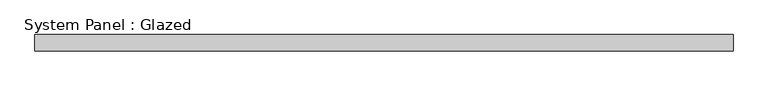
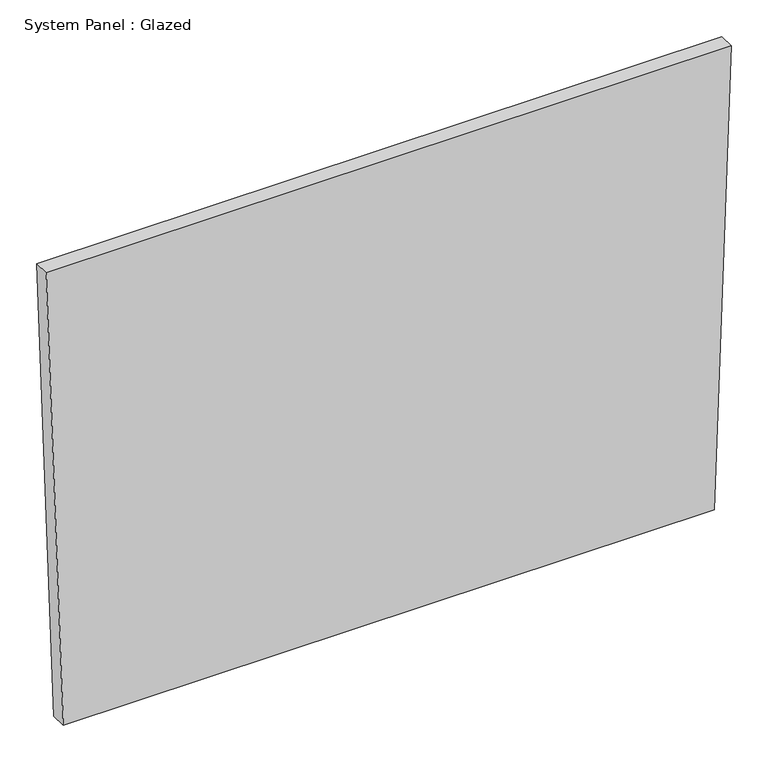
"""IFC4 building model written with IfcOpenShell, lengths in millimetres: plate geometry, System Panel : Glazed."""

from ifc_helpers import new_model, si_unit, frame, origin, place, context, project, spatial, polyline, outline, extrude, source, transform, mapped, element, save


def system_panel_glazed_c19471c4(model_context):
    return source(origin(), model_context, "Body", "SweptSolid", [
        extrude(outline(polyline([(0.0, -511.7354253), (0.0, 511.7354253), (761.5238602, 538.6688688), (761.5238602, -538.6688688), (0.0, -511.7354253)])), frame((0.0, -44.45, 0.0), z_axis=(0.0, 1.0, 0.0), x_axis=(0.0, 0.0, 1.0)), (0.0, 0.0, 1.0), 25.4),
    ])


if __name__ == "__main__":
    model = new_model("IFC4")
    model_context = context("Model", 3, world=origin())
    ifc_project = project(units=[si_unit("LENGTHUNIT", "METRE", prefix="MILLI")], contexts=[model_context])
    site = spatial("IfcSite", under=ifc_project)
    building = spatial("IfcBuilding", under=site)
    placement = place(None, origin())
    system_panel_glazed_shape = system_panel_glazed_c19471c4(model_context)
    element("IfcPlate", 1, ObjectType="System Panel : Glazed", at=placement, inside=building, context=model_context, shape_type="MappedRepresentation", body=[
        mapped(system_panel_glazed_shape, transform((0.0, 0.0, 0.0), x_axis=(1.0, 0.0, 0.0), y_axis=(0.0, 1.0, 0.0), z_axis=(0.0, 0.0, 1.0))),
    ])
    save(model, "model.ifc")
